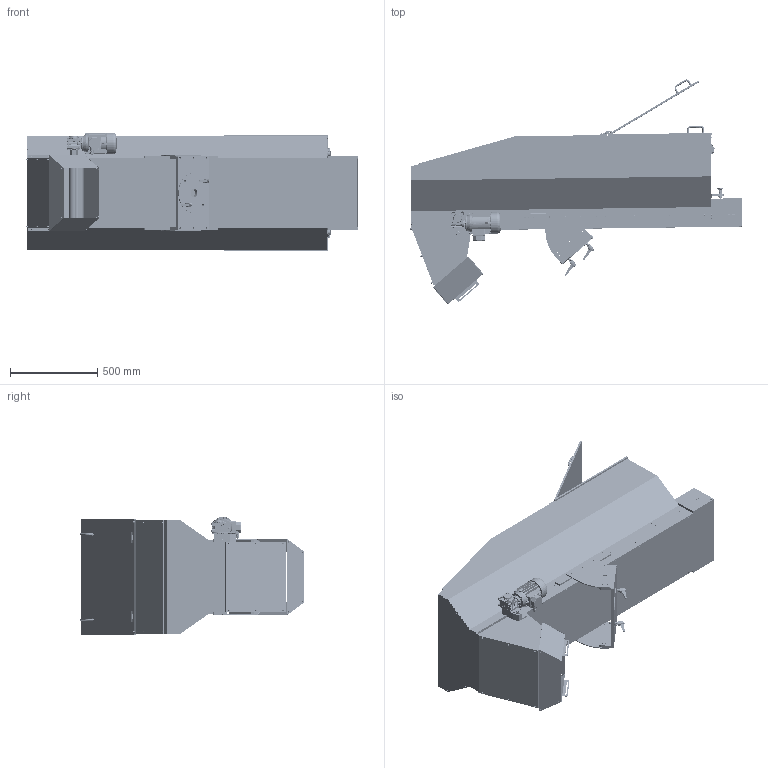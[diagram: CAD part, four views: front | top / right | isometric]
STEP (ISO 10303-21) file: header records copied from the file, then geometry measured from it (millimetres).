
FILE_DESCRIPTION (( 'STEP AP214' ), '1' );
FILE_NAME ('GM001464.00.step', '2024-09-25T08:41:06', ( '' ), ( '' ), 'SwSTEP 2.0', 'SolidWorks 2023', '' );
FILE_SCHEMA (( 'AUTOMOTIVE_DESIGN' ));
Length unit declared in the file: millimetre
Products named in the file (6): PD001824; GM001464.00; Copia di Supporto 150l^CM001895_Default<A macchina>; CM001895; PD001825; Copia di CM001895^CM001895
Assembly tree (7 placements, depth 3):
  GM001464.00
    CM001895
      Copia di CM001895^CM001895
      Copia di Supporto 150l^CM001895_Default<A macchina>
    PD001825  x2
    PD001824  x2
Bounding box: 1905.38 x 1290.75 x 681.4 mm (x, y, z)
Volume: 287468.5 mm3; surface area: 21036137.9 mm2
Topology: 4 solids, 520 shells, 8206 faces, 21200 edges, 13815 vertices
Faces by surface type: plane 3842, cylinder 3067, cone 875, bspline 225, torus 99, sphere 98
Entity records: 281168 total; most frequent: CARTESIAN_POINT 81542, ORIENTED_EDGE 40916, DIRECTION 40152, EDGE_CURVE 20750, AXIS2_PLACEMENT_3D 14793, VERTEX_POINT 13610, LINE 10566, VECTOR 10566
